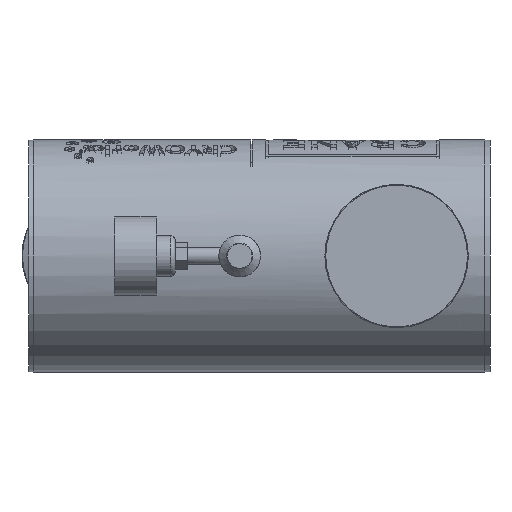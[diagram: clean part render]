
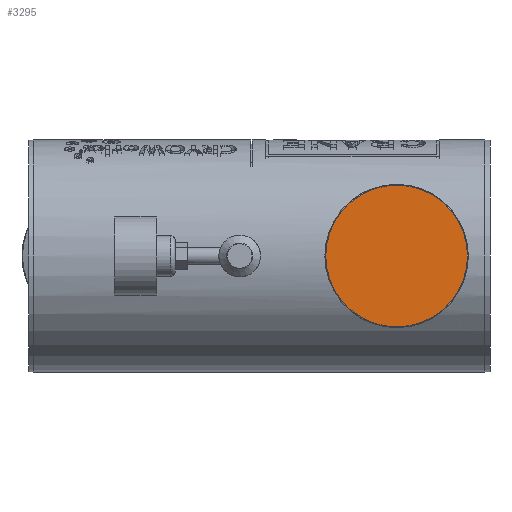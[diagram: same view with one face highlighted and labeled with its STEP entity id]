
A CAD part, left-side view. The second image highlights one B-rep face of the part: STEP entity #3295.
In plain terms, the highlighted planar face has unit normal (-1, -0.018, 0).
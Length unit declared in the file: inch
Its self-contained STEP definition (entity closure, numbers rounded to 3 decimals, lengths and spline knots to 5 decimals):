
#1127 = CARTESIAN_POINT ( 'NONE',  ( -15., -0.26183, -1.6985 ) ) ;
#2775 = CARTESIAN_POINT ( 'NONE',  ( -15., -0.26183, 0. ) ) ;
#3199 = DIRECTION ( 'NONE',  ( 0., 0., -1. ) ) ;
#3295 = ADVANCED_FACE ( 'NONE', ( #16515 ), #7313, .T. ) ;
#4304 = AXIS2_PLACEMENT_3D ( 'NONE', #2775, #7608, #3199 ) ;
#7313 = PLANE ( 'NONE',  #24686 ) ;
#7608 = DIRECTION ( 'NONE',  ( -1., -0.017, 0. ) ) ;
#9760 = VERTEX_POINT ( 'NONE', #1127 ) ;
#11974 = EDGE_CURVE ( 'NONE', #9760, #9760, #12702, .T. ) ;
#12702 = CIRCLE ( 'NONE', #4304, 1.6985 ) ;
#16222 = DIRECTION ( 'NONE',  ( -1., -0.017, 0. ) ) ;
#16515 = FACE_OUTER_BOUND ( 'NONE', #25200, .T. ) ;
#19218 = ORIENTED_EDGE ( 'NONE', *, *, #11974, .T. ) ;
#20630 = CARTESIAN_POINT ( 'NONE',  ( -14.97001, -1.98006, 0. ) ) ;
#24686 = AXIS2_PLACEMENT_3D ( 'NONE', #20630, #16222, #25433 ) ;
#25200 = EDGE_LOOP ( 'NONE', ( #19218 ) ) ;
#25433 = DIRECTION ( 'NONE',  ( 0., 0., -1. ) ) ;
